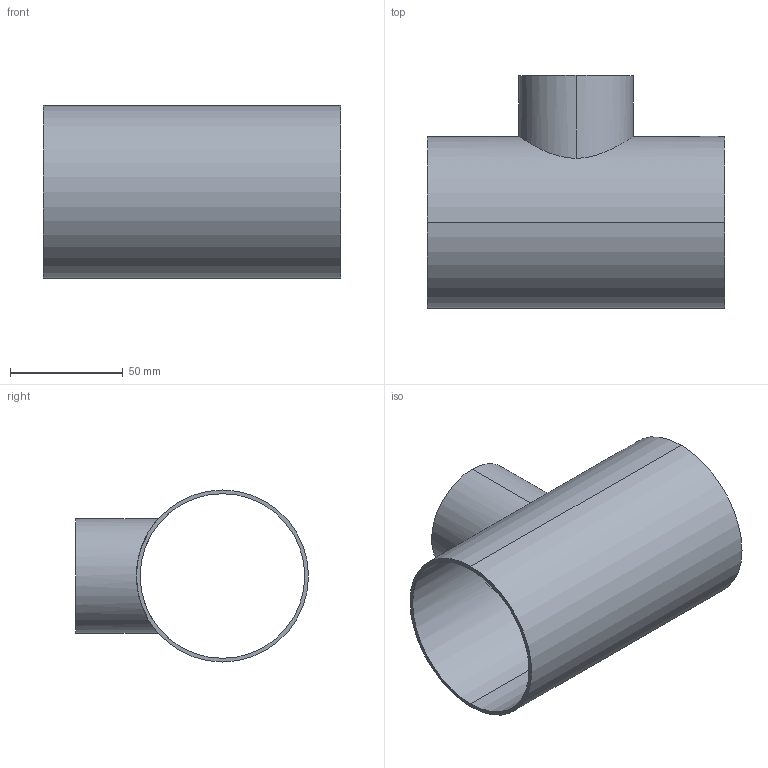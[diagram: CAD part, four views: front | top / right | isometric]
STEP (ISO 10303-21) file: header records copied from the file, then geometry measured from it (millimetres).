
FILE_DESCRIPTION (( 'STEP AP203' ), '1' );
FILE_NAME ('E7RWWW3.0X2.0.STEP', '2018-04-30T18:46:46', ( 'vneprd' ), ( 'Microsoft' ), 'SwSTEP 2.0', 'SolidWorks 2014', '' );
FILE_SCHEMA (( 'CONFIG_CONTROL_DESIGN' ));
Length unit declared in the file: inch
Products named in the file (1): E7RWWW3.0X2.0
Bounding box: 131.75 x 103.17 x 76.2 mm (x, y, z)
Volume: 55824.8 mm3; surface area: 68647.1 mm2
Topology: 1 solids, 1 shells, 11 faces, 24 edges, 16 vertices
Faces by surface type: cylinder 8, plane 3
Entity records: 643 total; most frequent: CARTESIAN_POINT 306, DIRECTION 56, ORIENTED_EDGE 48, EDGE_CURVE 24, AXIS2_PLACEMENT_3D 24, VERTEX_POINT 16, EDGE_LOOP 16, CIRCLE 12
